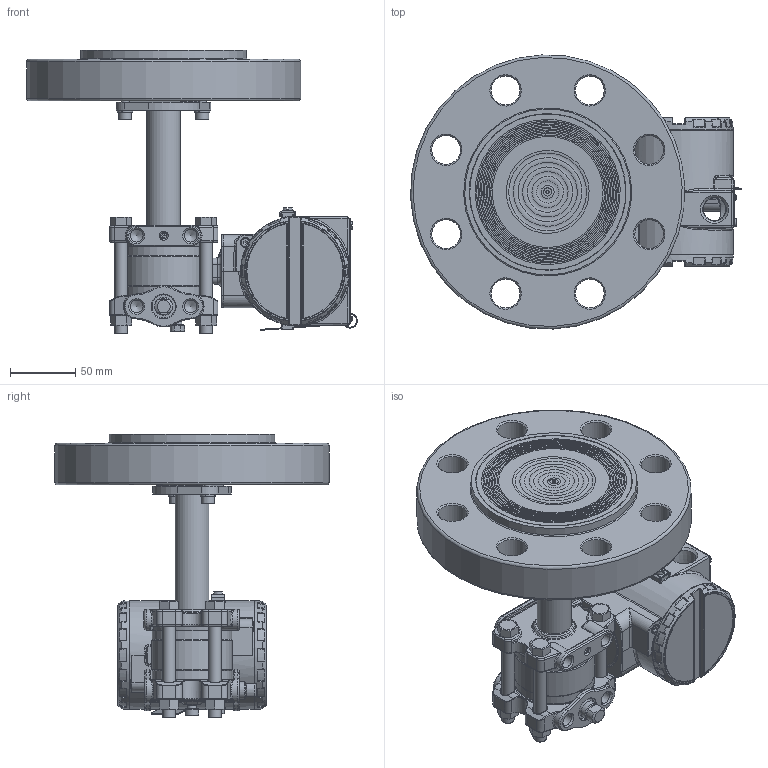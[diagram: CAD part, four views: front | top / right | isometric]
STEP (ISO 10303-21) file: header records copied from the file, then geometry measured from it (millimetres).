
FILE_DESCRIPTION(/* description */ (''),/* implementation_level */ '2;1');
FILE_NAME(/* name */ 'F:\Area\Desenvolvimento_2\Projects\Sensor\projetos\LD30X\montagens 3d - clientes\SELO NIVEL\LD30XL 3-600 RF ref 1-4NPT purga acima.stp',/* time_stamp */ '2023-02-10T17:24:14-03:00',/* author */ ('inventor02'),/* organization */ (''),/* preprocessor_version */ 'ST-DEVELOPER v17',/* originating_system */ 'Autodesk Inventor 2019',/* authorisation */ '');
FILE_SCHEMA (('CONFIG_CONTROL_DESIGN'));
Products named in the file (38): LD30XL 3-600 RF ref 1-4NPT purga acima; 204-0301-L-3 600 RF purga acima; nivel fx3 com baixa diferencial 1-4NPT purga acima; involucro fx0-3 apos a usinagem final; flange diferencial std purga; 101-C-7484-01 flange selo nivel VR; 201-A-0504-tubo união teste 1; bujao 1-4NPT; Sangria; Porca 3-8 x 16 UNC; Paraf. 3-8 x 16 UNC; adaptação tubo x flanges 1-1-2 a 4pol; 101-B-0161-anel cortado do tubo - teste1; 101-B-0162-flange fixação tubo; ANSI B18.3.1M - M6x1 x 16; DIN 127 - A 6; 101-C-0127-10; carcaça vazia com tampas e plaqueta; carcaça LD inox sem letras; Subconjunto plaqueta 300; Plaqueta transmissor; Parafuso da Plaqueta; Rebite da Plaqueta; 096-A-0169-03; 101-A-0502-01; Chapa aterramento externo; ISO 1207 - M4 x 8; DIN 915 - M6 x 10; ANSI B18.3.1M - M4x0,7 x 8; Subconjunto tampa com visor aluminio; tampa pintada; VIDRO DO VISOR; oring 41x1 vidro tampa; Trava do vidro da tampa com visor; trava do vidro VH256; Subconjunto tampa sem visor-aluminio; tampa cega 300 pintada p0; 00034775-0
Assembly tree (48 placements, depth 4):
  LD30XL 3-600 RF ref 1-4NPT purga acima
    204-0301-L-3 600 RF purga acima
      nivel fx3 com baixa diferencial 1-4NPT purga acima
        involucro fx0-3 apos a usinagem final
        flange diferencial std purga
        101-C-7484-01 flange selo nivel VR
        201-A-0504-tubo união teste 1
        DIN 915 - M6 x 10
        bujao 1-4NPT
        Sangria
        Porca 3-8 x 16 UNC  x4
        Paraf. 3-8 x 16 UNC  x4
      adaptação tubo x flanges 1-1-2 a 4pol
        101-B-0161-anel cortado do tubo - teste1
        101-B-0162-flange fixação tubo
        ANSI B18.3.1M - M6x1 x 16  x2
        DIN 127 - A 6  x2
      101-C-0127-10
    carcaça vazia com tampas e plaqueta
      carcaça LD inox sem letras
      Subconjunto plaqueta 300
        Plaqueta transmissor
        Parafuso da Plaqueta
        Rebite da Plaqueta
        096-A-0169-03
        101-A-0502-01
      Chapa aterramento externo
      ISO 1207 - M4 x 8
      DIN 915 - M6 x 10
      ANSI B18.3.1M - M4x0,7 x 8  x2
      Subconjunto tampa com visor aluminio
        tampa pintada
        VIDRO DO VISOR
        oring 41x1 vidro tampa
        Trava do vidro da tampa com visor
        trava do vidro VH256
        00034775-0
      Subconjunto tampa sem visor-aluminio
        tampa cega 300 pintada p0
        00034775-0
Bounding box: 253.18 x 209.8 x 217.1 mm (x, y, z)
Volume: 1689416.1 mm3; surface area: 360135.4 mm2
Topology: 41 solids, 41 shells, 2693 faces, 6457 edges, 3807 vertices
Faces by surface type: bspline 667, cylinder 652, plane 547, torus 451, cone 250, sphere 126
Full cylindrical faces by diameter (mm): 2 x4, 2.1 x2, 2.459 x5, 2.5 x1, 2.642 x1, 2.7 x1, 2.8 x1, 3 x4, 3.242 x4, 3.5 x5, 3.571 x1, 4 x5, 4.3 x1, 4.4 x1, 4.917 x4, 5 x1, 5.5 x3, 6 x6, 6.647 x1, 7 x7, 7.087 x2, 7.6 x2, 7.798 x4, 8 x1, 8.7 x2, 9.525 x4, 9.728 x6, 10 x2, 10.5 x8, 10.719 x2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
Entity records: 93144 total; most frequent: CARTESIAN_POINT 34426, ORIENTED_EDGE 12094, DIRECTION 12067, EDGE_CURVE 6047, AXIS2_PLACEMENT_3D 5313, VERTEX_POINT 3613, CIRCLE 3137, EDGE_LOOP 2728
